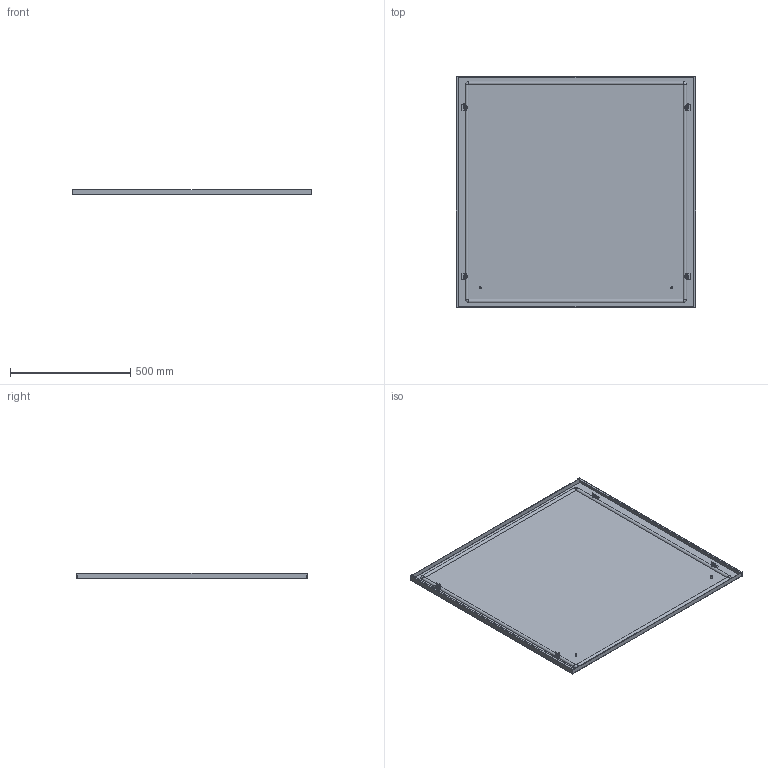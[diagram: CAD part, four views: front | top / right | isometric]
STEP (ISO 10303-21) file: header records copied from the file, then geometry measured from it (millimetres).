
FILE_DESCRIPTION(('Open CASCADE Model'),'2;1');
FILE_NAME('Open CASCADE Shape Model','2025-02-07T16:30:42',('Author'),( 'Open CASCADE'),'Open CASCADE STEP processor 7.8','Open CASCADE 7.8' ,'Unknown');
FILE_SCHEMA(('AUTOMOTIVE_DESIGN { 1 0 10303 214 1 1 1 1 }'));
Length unit declared in the file: millimetre
Products named in the file (10): Compound1; Compound2; Compound3; Solid1; Solid2; Solid3; Solid4; Solid5; Solid6; Solid7
Assembly tree (24 placements, depth 4):
  Compound1
    Compound2
      Compound3
        Solid1
        Solid2  x4
      Solid3
    Solid4  x4
    Solid5  x4
    Solid6  x4
    Solid7  x4
Bounding box: 994 x 955 x 23.8 mm (x, y, z)
Volume: 1891239.7 mm3; surface area: 2243814.1 mm2
Topology: 22 solids, 22 shells, 859 faces, 2090 edges, 1274 vertices
Faces by surface type: plane 543, cone 156, cylinder 140, torus 14, bspline 4, revolution 2
Full cylindrical faces by diameter (mm): 5 x8, 6 x68, 7.5 x4, 8 x8, 10 x4, 11.57 x4
Entity records: 7501 total; most frequent: CARTESIAN_POINT 1443, ORIENTED_EDGE 1216, DIRECTION 1203, EDGE_CURVE 608, LINE 409, VECTOR 409, AXIS2_PLACEMENT_3D 396, VERTEX_POINT 377
